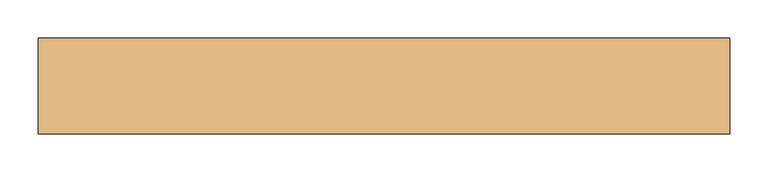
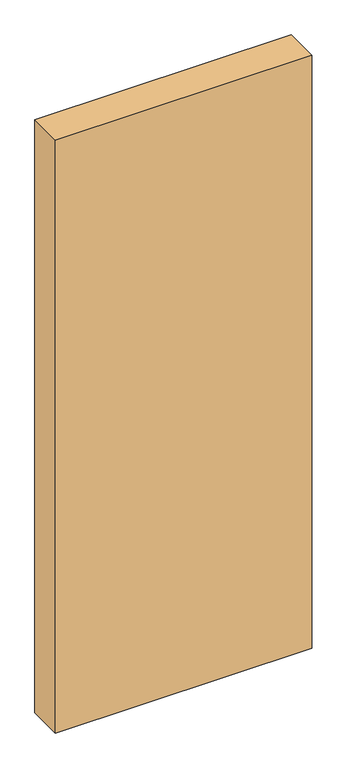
"""IFC4 building model written with IfcOpenShell, lengths in millimetres: door geometry, Dr_Проем-Простой : ДВ."""

from ifc_helpers import new_model, si_unit, frame, origin, place, context, project, spatial, polyline, outline, extrude, source, transform, mapped, element, save


def door_b8e875bd(model_context):
    return source(origin(), model_context, "Body", "SweptSolid", [
        extrude(outline(polyline([(655.3230163, 62.5), (655.3230163, -62.5), (-244.6769837, -62.5), (-244.6769837, 62.5), (655.3230163, 62.5)])), frame((0.0, 0.0, -100.0), z_axis=(0.0, 0.0, 1.0), x_axis=(1.0, 0.0, 0.0)), (0.0, 0.0, 1.0), 2200.0),
    ])


if __name__ == "__main__":
    model = new_model("IFC4")
    model_context = context("Model", 3, world=origin())
    ifc_project = project(units=[si_unit("LENGTHUNIT", "METRE", prefix="MILLI")], contexts=[model_context])
    site = spatial("IfcSite", under=ifc_project)
    building = spatial("IfcBuilding", under=site)
    placement = place(None, origin())
    door_shape = door_b8e875bd(model_context)
    element("IfcDoor", 1, ObjectType="Dr_Проем-Простой : ДВ", at=placement, inside=building, context=model_context, shape_type="MappedRepresentation", body=[
        mapped(door_shape, transform((0.0, 0.0, 0.0), x_axis=(1.0, 0.0, 0.0), y_axis=(0.0, 1.0, 0.0), z_axis=(0.0, 0.0, 1.0))),
    ])
    save(model, "model.ifc")
